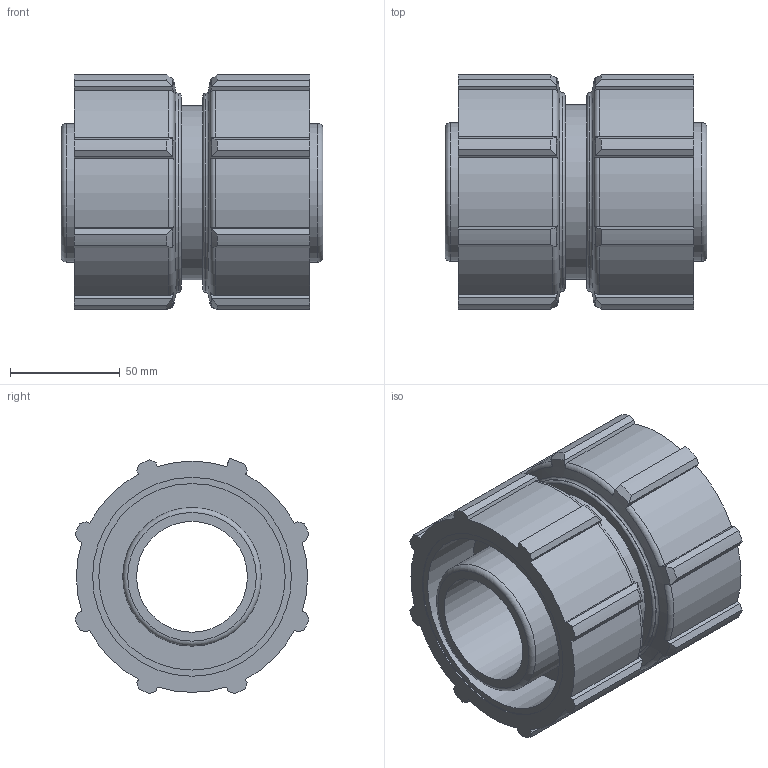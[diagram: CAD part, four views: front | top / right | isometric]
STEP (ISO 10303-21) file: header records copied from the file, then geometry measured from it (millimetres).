
FILE_DESCRIPTION(/* description */ ('PLASSON MODULAR ADAPTOR 63'),/* implementation_level */ '2;1');
FILE_NAME(/* name */ 'C:\Dropbox\KIMPROJECTS-Inventor\99-16-3568-Processing\Mechanical Fittings\07940\079400063__0794060630A.ipt.stp',/* time_stamp */ '2018-07-31T14:20:43+03:00',/* author */ ('KIM'),/* organization */ (''),/* preprocessor_version */ 'ST-DEVELOPER v15.6',/* originating_system */ 'Autodesk Inventor 2015',/* authorisation */ '');
FILE_SCHEMA (('AUTOMOTIVE_DESIGN { 1 0 10303 214 3 1 1 }'));
Length unit declared in the file: millimetre
Products named in the file (1): 079400063__0794060630A
Bounding box: 119 x 106.32 x 107.05 mm (x, y, z)
Volume: 549094.2 mm3; surface area: 107230.2 mm2
Topology: 1 solids, 1 shells, 154 faces, 424 edges, 280 vertices
Faces by surface type: plane 72, cylinder 42, torus 22, cone 18
Full cylindrical faces by diameter (mm): 50.4 x1, 63 x2, 79.1 x1, 84.75 x2, 90.4 x4
Entity records: 4850 total; most frequent: CARTESIAN_POINT 983, ORIENTED_EDGE 808, DIRECTION 808, EDGE_CURVE 404, AXIS2_PLACEMENT_3D 309, VERTEX_POINT 278, LINE 190, VECTOR 190
